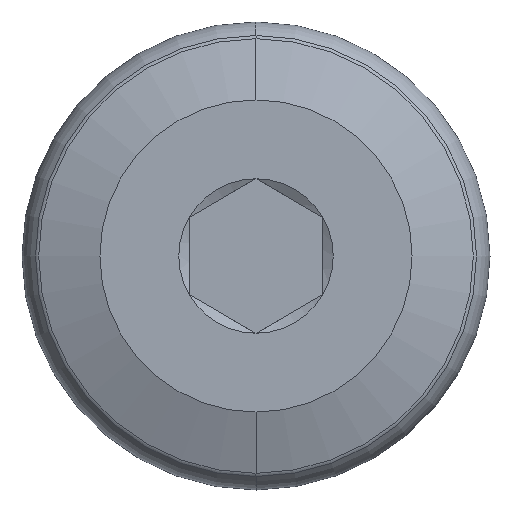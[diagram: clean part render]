
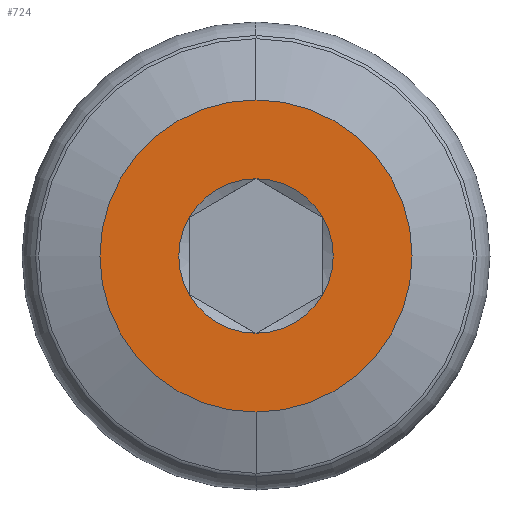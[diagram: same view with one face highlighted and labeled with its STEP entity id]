
A CAD part, left-side view. The second image highlights one B-rep face of the part: STEP entity #724.
In plain terms, the highlighted planar face has unit normal (-1, 0, 0).
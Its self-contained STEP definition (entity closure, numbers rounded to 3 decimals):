
#12 = EDGE_CURVE ( 'NONE', #190, #668, #613, .T. ) ;
#19 = DIRECTION ( 'NONE',  ( 1., 0., 0. ) ) ;
#30 = CARTESIAN_POINT ( 'NONE',  ( 0., 1.5, 0.866 ) ) ;
#52 = ORIENTED_EDGE ( 'NONE', *, *, #798, .T. ) ;
#55 = CARTESIAN_POINT ( 'NONE',  ( 0., -1.5, -0.866 ) ) ;
#62 = EDGE_CURVE ( 'NONE', #316, #237, #473, .T. ) ;
#68 = CARTESIAN_POINT ( 'NONE',  ( 0., 0., 1.732 ) ) ;
#71 = DIRECTION ( 'NONE',  ( 1., 0., 0. ) ) ;
#86 = CIRCLE ( 'NONE', #239, 1.732 ) ;
#87 = FACE_BOUND ( 'NONE', #400, .T. ) ;
#90 = CARTESIAN_POINT ( 'NONE',  ( 0., 0., 0. ) ) ;
#96 = AXIS2_PLACEMENT_3D ( 'NONE', #401, #71, #332 ) ;
#101 = DIRECTION ( 'NONE',  ( 1., 0., 0. ) ) ;
#124 = EDGE_CURVE ( 'NONE', #668, #466, #233, .T. ) ;
#132 = CARTESIAN_POINT ( 'NONE',  ( 0., 0., 0. ) ) ;
#142 = DIRECTION ( 'NONE',  ( 0., 0., -1. ) ) ;
#158 = DIRECTION ( 'NONE',  ( 0., 0., 1. ) ) ;
#175 = ORIENTED_EDGE ( 'NONE', *, *, #474, .T. ) ;
#180 = ORIENTED_EDGE ( 'NONE', *, *, #735, .T. ) ;
#189 = CARTESIAN_POINT ( 'NONE',  ( 0., 0., 3.5 ) ) ;
#190 = VERTEX_POINT ( 'NONE', #30 ) ;
#216 = DIRECTION ( 'NONE',  ( 0., 0., -1. ) ) ;
#230 = EDGE_LOOP ( 'NONE', ( #536, #706 ) ) ;
#233 = CIRCLE ( 'NONE', #260, 1.732 ) ;
#235 = CIRCLE ( 'NONE', #96, 3.5 ) ;
#237 = VERTEX_POINT ( 'NONE', #371 ) ;
#239 = AXIS2_PLACEMENT_3D ( 'NONE', #353, #489, #216 ) ;
#260 = AXIS2_PLACEMENT_3D ( 'NONE', #619, #687, #800 ) ;
#270 = DIRECTION ( 'NONE',  ( 1., 0., 0. ) ) ;
#279 = DIRECTION ( 'NONE',  ( 0., 0., -1. ) ) ;
#300 = VERTEX_POINT ( 'NONE', #583 ) ;
#302 = DIRECTION ( 'NONE',  ( 1., 0., 0. ) ) ;
#306 = AXIS2_PLACEMENT_3D ( 'NONE', #481, #743, #158 ) ;
#316 = VERTEX_POINT ( 'NONE', #189 ) ;
#320 = CARTESIAN_POINT ( 'NONE',  ( 0., 0., 0. ) ) ;
#327 = EDGE_CURVE ( 'NONE', #300, #190, #491, .T. ) ;
#332 = DIRECTION ( 'NONE',  ( 0., 0., -1. ) ) ;
#333 = VERTEX_POINT ( 'NONE', #55 ) ;
#353 = CARTESIAN_POINT ( 'NONE',  ( 0., 0., 0. ) ) ;
#355 = AXIS2_PLACEMENT_3D ( 'NONE', #320, #379, #636 ) ;
#360 = DIRECTION ( 'NONE',  ( 0., 0., -1. ) ) ;
#371 = CARTESIAN_POINT ( 'NONE',  ( 0., 0., -3.5 ) ) ;
#373 = VERTEX_POINT ( 'NONE', #467 ) ;
#379 = DIRECTION ( 'NONE',  ( 1., 0., 0. ) ) ;
#386 = EDGE_CURVE ( 'NONE', #237, #316, #235, .T. ) ;
#400 = EDGE_LOOP ( 'NONE', ( #789, #631, #175, #180, #52, #518 ) ) ;
#401 = CARTESIAN_POINT ( 'NONE',  ( 0., 0., 0. ) ) ;
#407 = CIRCLE ( 'NONE', #476, 1.732 ) ;
#466 = VERTEX_POINT ( 'NONE', #654 ) ;
#467 = CARTESIAN_POINT ( 'NONE',  ( 0., 0., -1.732 ) ) ;
#473 = CIRCLE ( 'NONE', #599, 3.5 ) ;
#474 = EDGE_CURVE ( 'NONE', #466, #333, #407, .T. ) ;
#476 = AXIS2_PLACEMENT_3D ( 'NONE', #132, #302, #556 ) ;
#481 = CARTESIAN_POINT ( 'NONE',  ( 0., 3.5, 0. ) ) ;
#489 = DIRECTION ( 'NONE',  ( 1., 0., 0. ) ) ;
#491 = CIRCLE ( 'NONE', #355, 1.732 ) ;
#518 = ORIENTED_EDGE ( 'NONE', *, *, #327, .T. ) ;
#536 = ORIENTED_EDGE ( 'NONE', *, *, #386, .F. ) ;
#550 = CARTESIAN_POINT ( 'NONE',  ( 0., 0., 0. ) ) ;
#556 = DIRECTION ( 'NONE',  ( 0., 0., -1. ) ) ;
#583 = CARTESIAN_POINT ( 'NONE',  ( 0., 1.5, -0.866 ) ) ;
#598 = CARTESIAN_POINT ( 'NONE',  ( 0., 0., 0. ) ) ;
#599 = AXIS2_PLACEMENT_3D ( 'NONE', #598, #19, #279 ) ;
#613 = CIRCLE ( 'NONE', #788, 1.732 ) ;
#617 = FACE_OUTER_BOUND ( 'NONE', #230, .T. ) ;
#619 = CARTESIAN_POINT ( 'NONE',  ( 0., 0., 0. ) ) ;
#631 = ORIENTED_EDGE ( 'NONE', *, *, #124, .T. ) ;
#636 = DIRECTION ( 'NONE',  ( 0., 0., -1. ) ) ;
#654 = CARTESIAN_POINT ( 'NONE',  ( 0., -1.5, 0.866 ) ) ;
#668 = VERTEX_POINT ( 'NONE', #68 ) ;
#679 = PLANE ( 'NONE',  #306 ) ;
#687 = DIRECTION ( 'NONE',  ( 1., 0., 0. ) ) ;
#706 = ORIENTED_EDGE ( 'NONE', *, *, #62, .F. ) ;
#724 = ADVANCED_FACE ( 'NONE', ( #87, #617 ), #679, .T. ) ;
#735 = EDGE_CURVE ( 'NONE', #333, #373, #86, .T. ) ;
#743 = DIRECTION ( 'NONE',  ( -1., 0., 0. ) ) ;
#750 = AXIS2_PLACEMENT_3D ( 'NONE', #550, #101, #360 ) ;
#788 = AXIS2_PLACEMENT_3D ( 'NONE', #90, #270, #142 ) ;
#789 = ORIENTED_EDGE ( 'NONE', *, *, #12, .T. ) ;
#798 = EDGE_CURVE ( 'NONE', #373, #300, #820, .T. ) ;
#800 = DIRECTION ( 'NONE',  ( 0., 0., -1. ) ) ;
#820 = CIRCLE ( 'NONE', #750, 1.732 ) ;
